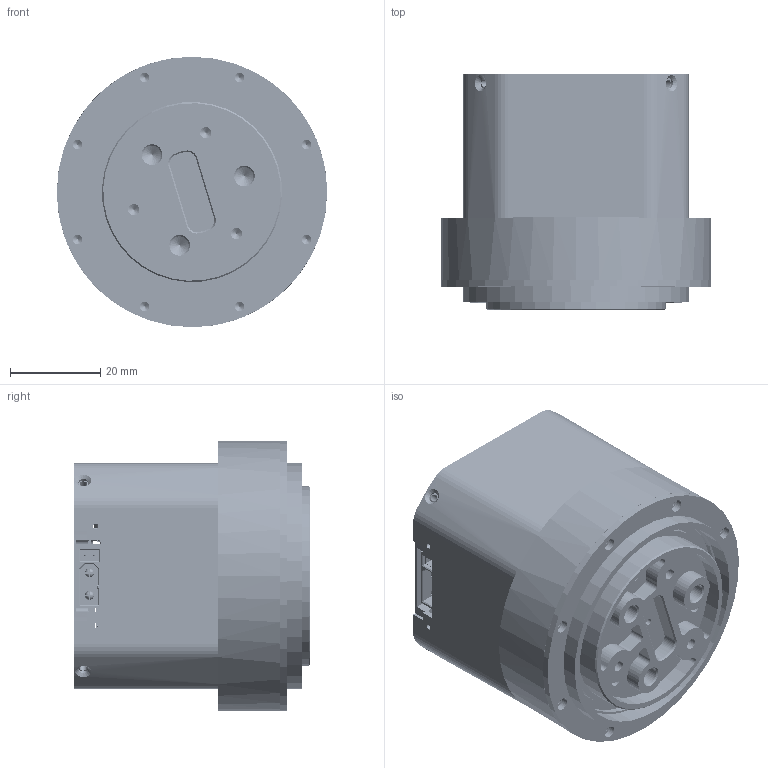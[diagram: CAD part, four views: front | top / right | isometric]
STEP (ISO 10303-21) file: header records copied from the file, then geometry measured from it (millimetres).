
FILE_DESCRIPTION (( 'STEP AP214' ), '1' );
FILE_NAME ('5047交叉滚子版本-简易模型.STEP', '2025-04-02T08:10:06', ( '' ), ( '' ), 'SwSTEP 2.0', 'SolidWorks 2024', '' );
FILE_SCHEMA (( 'AUTOMOTIVE_DESIGN' ));
Length unit declared in the file: millimetre
Products named in the file (8): CRBT 405 A1.1; 垫片5047-jc1.1; 压环5047-jc1.1; 5047交叉滚子版本-简易模型; 5047交叉滚子版外壳-适配小π; 5047交叉滚子版本-带一字槽输出; 3D_双编-5047（功率升级48）_V1.5.0918_2024-09-181.1; 5047电机盖11041.1
Assembly tree (7 placements, depth 2):
  5047交叉滚子版本-简易模型
    压环5047-jc1.1
    CRBT 405 A1.1
    垫片5047-jc1.1
    3D_双编-5047（功率升级48）_V1.5.0918_2024-09-181.1
    5047电机盖11041.1
    5047交叉滚子版外壳-适配小π
    5047交叉滚子版本-带一字槽输出
Bounding box: 60 x 52.4 x 60 mm (x, y, z)
Volume: 60084.1 mm3; surface area: 53300.5 mm2
Topology: 117 solids, 117 shells, 17855 faces, 47031 edges, 30146 vertices
Faces by surface type: plane 9803, bspline 4831, cylinder 2308, sphere 494, torus 294, cone 125
Entity records: 610782 total; most frequent: CARTESIAN_POINT 203910, ORIENTED_EDGE 93232, DIRECTION 66663, EDGE_CURVE 46616, LINE 30529, VECTOR 30529, VERTEX_POINT 30122, EDGE_LOOP 19098
